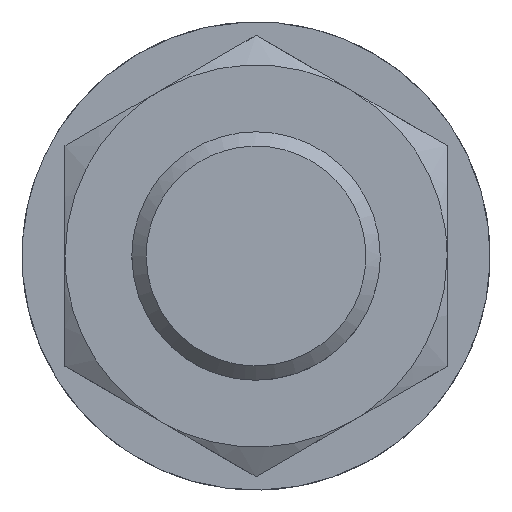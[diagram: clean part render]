
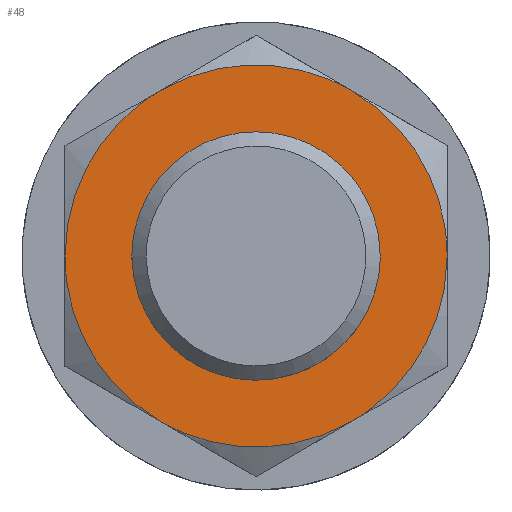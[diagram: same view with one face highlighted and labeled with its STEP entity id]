
A CAD part, left-side view. The second image highlights one B-rep face of the part: STEP entity #48.
In plain terms, the highlighted planar face has unit normal (-1, 0, 0).
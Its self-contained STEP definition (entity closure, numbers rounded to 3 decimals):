
#39=FACE_BOUND('',#135,.T.);
#48=ADVANCED_FACE('',(#90,#39),#655,.T.);
#90=FACE_OUTER_BOUND('',#134,.T.);
#134=EDGE_LOOP('',(#198,#199,#200,#201,#202,#203));
#135=EDGE_LOOP('',(#204,#205));
#198=ORIENTED_EDGE('',*,*,#399,.F.);
#199=ORIENTED_EDGE('',*,*,#401,.F.);
#200=ORIENTED_EDGE('',*,*,#402,.F.);
#201=ORIENTED_EDGE('',*,*,#400,.F.);
#202=ORIENTED_EDGE('',*,*,#398,.F.);
#203=ORIENTED_EDGE('',*,*,#397,.F.);
#204=ORIENTED_EDGE('',*,*,#387,.F.);
#205=ORIENTED_EDGE('',*,*,#385,.F.);
#385=EDGE_CURVE('',#600,#590,#510,.T.);
#387=EDGE_CURVE('',#590,#600,#511,.T.);
#397=EDGE_CURVE('',#594,#595,#519,.T.);
#398=EDGE_CURVE('',#595,#599,#520,.T.);
#399=EDGE_CURVE('',#596,#594,#521,.T.);
#400=EDGE_CURVE('',#599,#598,#522,.T.);
#401=EDGE_CURVE('',#597,#596,#523,.T.);
#402=EDGE_CURVE('',#598,#597,#524,.T.);
#510=(
BOUNDED_CURVE()
B_SPLINE_CURVE(2,(#1158,#1159,#1160,#1161,#1162),.UNSPECIFIED.,.F.,.F.)
B_SPLINE_CURVE_WITH_KNOTS((3,2,3),(81.681,122.522,163.363),
 .UNSPECIFIED.)
CURVE()
GEOMETRIC_REPRESENTATION_ITEM()
RATIONAL_B_SPLINE_CURVE((1.,0.707,1.,0.707,1.))
REPRESENTATION_ITEM('')
);
#511=(
BOUNDED_CURVE()
B_SPLINE_CURVE(2,(#1165,#1166,#1167,#1168,#1169),.UNSPECIFIED.,.F.,.F.)
B_SPLINE_CURVE_WITH_KNOTS((3,2,3),(0.,40.841,81.681),
 .UNSPECIFIED.)
CURVE()
GEOMETRIC_REPRESENTATION_ITEM()
RATIONAL_B_SPLINE_CURVE((1.,0.707,1.,0.707,1.))
REPRESENTATION_ITEM('')
);
#519=(
BOUNDED_CURVE()
B_SPLINE_CURVE(2,(#1207,#1208,#1209),.UNSPECIFIED.,.F.,.F.)
B_SPLINE_CURVE_WITH_KNOTS((3,3),(0.,41.888),.UNSPECIFIED.)
CURVE()
GEOMETRIC_REPRESENTATION_ITEM()
RATIONAL_B_SPLINE_CURVE((1.,0.866,1.))
REPRESENTATION_ITEM('')
);
#520=(
BOUNDED_CURVE()
B_SPLINE_CURVE(2,(#1210,#1211,#1212),.UNSPECIFIED.,.F.,.F.)
B_SPLINE_CURVE_WITH_KNOTS((3,3),(0.,41.888),.UNSPECIFIED.)
CURVE()
GEOMETRIC_REPRESENTATION_ITEM()
RATIONAL_B_SPLINE_CURVE((1.,0.866,1.))
REPRESENTATION_ITEM('')
);
#521=(
BOUNDED_CURVE()
B_SPLINE_CURVE(2,(#1213,#1214,#1215),.UNSPECIFIED.,.F.,.F.)
B_SPLINE_CURVE_WITH_KNOTS((3,3),(0.,41.888),.UNSPECIFIED.)
CURVE()
GEOMETRIC_REPRESENTATION_ITEM()
RATIONAL_B_SPLINE_CURVE((1.,0.866,1.))
REPRESENTATION_ITEM('')
);
#522=(
BOUNDED_CURVE()
B_SPLINE_CURVE(2,(#1216,#1217,#1218),.UNSPECIFIED.,.F.,.F.)
B_SPLINE_CURVE_WITH_KNOTS((3,3),(0.,41.888),.UNSPECIFIED.)
CURVE()
GEOMETRIC_REPRESENTATION_ITEM()
RATIONAL_B_SPLINE_CURVE((1.,0.866,1.))
REPRESENTATION_ITEM('')
);
#523=(
BOUNDED_CURVE()
B_SPLINE_CURVE(2,(#1219,#1220,#1221),.UNSPECIFIED.,.F.,.F.)
B_SPLINE_CURVE_WITH_KNOTS((3,3),(0.,41.888),.UNSPECIFIED.)
CURVE()
GEOMETRIC_REPRESENTATION_ITEM()
RATIONAL_B_SPLINE_CURVE((1.,0.866,1.))
REPRESENTATION_ITEM('')
);
#524=(
BOUNDED_CURVE()
B_SPLINE_CURVE(2,(#1222,#1223,#1224),.UNSPECIFIED.,.F.,.F.)
B_SPLINE_CURVE_WITH_KNOTS((3,3),(0.,41.888),.UNSPECIFIED.)
CURVE()
GEOMETRIC_REPRESENTATION_ITEM()
RATIONAL_B_SPLINE_CURVE((1.,0.866,1.))
REPRESENTATION_ITEM('')
);
#590=VERTEX_POINT('',#1126);
#594=VERTEX_POINT('',#1130);
#595=VERTEX_POINT('',#1131);
#596=VERTEX_POINT('',#1132);
#597=VERTEX_POINT('',#1133);
#598=VERTEX_POINT('',#1134);
#599=VERTEX_POINT('',#1135);
#600=VERTEX_POINT('',#1136);
#655=PLANE('',#769);
#769=AXIS2_PLACEMENT_3D('',#883,#795,$);
#795=DIRECTION('',(-1.,0.,0.));
#883=CARTESIAN_POINT('',(72.667,-48.12,-55.546));
#1126=CARTESIAN_POINT('',(72.667,26.,0.));
#1130=CARTESIAN_POINT('',(72.667,-20.,-34.641));
#1131=CARTESIAN_POINT('',(72.667,20.,-34.641));
#1132=CARTESIAN_POINT('',(72.667,-40.,0.));
#1133=CARTESIAN_POINT('',(72.667,-20.,34.641));
#1134=CARTESIAN_POINT('',(72.667,20.,34.641));
#1135=CARTESIAN_POINT('',(72.667,40.,0.));
#1136=CARTESIAN_POINT('',(72.667,-26.,0.));
#1158=CARTESIAN_POINT('',(72.667,-26.,0.));
#1159=CARTESIAN_POINT('',(72.667,-26.,26.));
#1160=CARTESIAN_POINT('',(72.667,0.,26.));
#1161=CARTESIAN_POINT('',(72.667,26.,26.));
#1162=CARTESIAN_POINT('',(72.667,26.,0.));
#1165=CARTESIAN_POINT('',(72.667,26.,0.));
#1166=CARTESIAN_POINT('',(72.667,26.,-26.));
#1167=CARTESIAN_POINT('',(72.667,0.,-26.));
#1168=CARTESIAN_POINT('',(72.667,-26.,-26.));
#1169=CARTESIAN_POINT('',(72.667,-26.,0.));
#1207=CARTESIAN_POINT('',(72.667,-20.,-34.641));
#1208=CARTESIAN_POINT('',(72.667,0.,-46.188));
#1209=CARTESIAN_POINT('',(72.667,20.,-34.641));
#1210=CARTESIAN_POINT('',(72.667,20.,-34.641));
#1211=CARTESIAN_POINT('',(72.667,40.,-23.094));
#1212=CARTESIAN_POINT('',(72.667,40.,0.));
#1213=CARTESIAN_POINT('',(72.667,-40.,0.));
#1214=CARTESIAN_POINT('',(72.667,-40.,-23.094));
#1215=CARTESIAN_POINT('',(72.667,-20.,-34.641));
#1216=CARTESIAN_POINT('',(72.667,40.,0.));
#1217=CARTESIAN_POINT('',(72.667,40.,23.094));
#1218=CARTESIAN_POINT('',(72.667,20.,34.641));
#1219=CARTESIAN_POINT('',(72.667,-20.,34.641));
#1220=CARTESIAN_POINT('',(72.667,-40.,23.094));
#1221=CARTESIAN_POINT('',(72.667,-40.,0.));
#1222=CARTESIAN_POINT('',(72.667,20.,34.641));
#1223=CARTESIAN_POINT('',(72.667,0.,46.188));
#1224=CARTESIAN_POINT('',(72.667,-20.,34.641));
